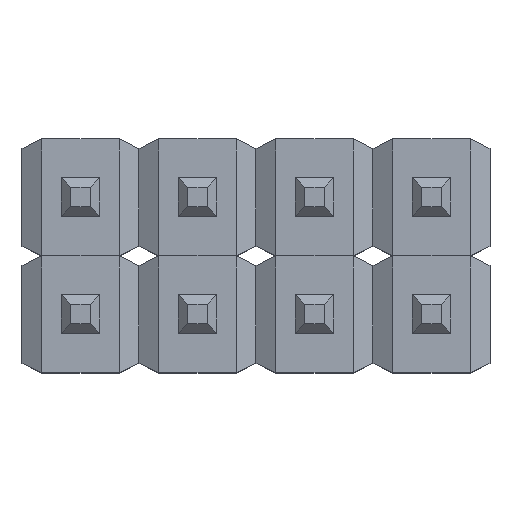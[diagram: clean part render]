
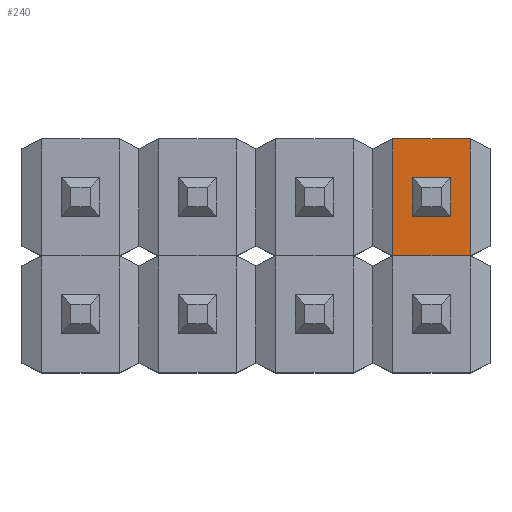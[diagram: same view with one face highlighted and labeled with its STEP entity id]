
A CAD part, top view. The second image highlights one B-rep face of the part: STEP entity #240.
In plain terms, the highlighted planar face has unit normal (0, 0, 1).
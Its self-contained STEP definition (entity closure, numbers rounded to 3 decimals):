
#212=CARTESIAN_POINT('',(8.464,1.27,2.526));
#211=VERTEX_POINT('',#212);
#222=CARTESIAN_POINT('',(8.464,-1.27,2.526));
#221=VERTEX_POINT('',#222);
#220=EDGE_CURVE('',#221,#211,#225,.T.);
#225=LINE('',#222,#227);
#227=VECTOR('',#228,2.54);
#228=DIRECTION('',(0.0,1.0,0.0));
#240=ADVANCED_FACE('',(#246),#241,.T.);
#241=PLANE('',#242);
#242=AXIS2_PLACEMENT_3D('',#243,#244,#245);
#243=CARTESIAN_POINT('',(6.776,-1.27,2.526));
#244=DIRECTION('',(0.0,0.0,1.0));
#245=DIRECTION('',(0.,1.,0.));
#246=FACE_OUTER_BOUND('',#247,.T.);
#247=EDGE_LOOP('',(#248,#258,#268,#278));
#253=CARTESIAN_POINT('',(6.776,-1.27,2.526));
#252=VERTEX_POINT('',#253);
#249=EDGE_CURVE('',#221,#252,#254,.T.);
#254=LINE('',#222,#256);
#256=VECTOR('',#257,1.689);
#257=DIRECTION('',(-1.0,0.0,0.0));
#248=ORIENTED_EDGE('',*,*,#249,.F.);
#258=ORIENTED_EDGE('',*,*,#220,.T.);
#271=CARTESIAN_POINT('',(6.776,1.27,2.526));
#270=VERTEX_POINT('',#271);
#269=EDGE_CURVE('',#270,#211,#274,.T.);
#274=LINE('',#271,#276);
#276=VECTOR('',#277,1.689);
#277=DIRECTION('',(1.0,0.0,0.0));
#268=ORIENTED_EDGE('',*,*,#269,.F.);
#279=EDGE_CURVE('',#252,#270,#284,.T.);
#284=LINE('',#253,#286);
#286=VECTOR('',#287,2.54);
#287=DIRECTION('',(0.0,1.0,0.0));
#278=ORIENTED_EDGE('',*,*,#279,.F.);
